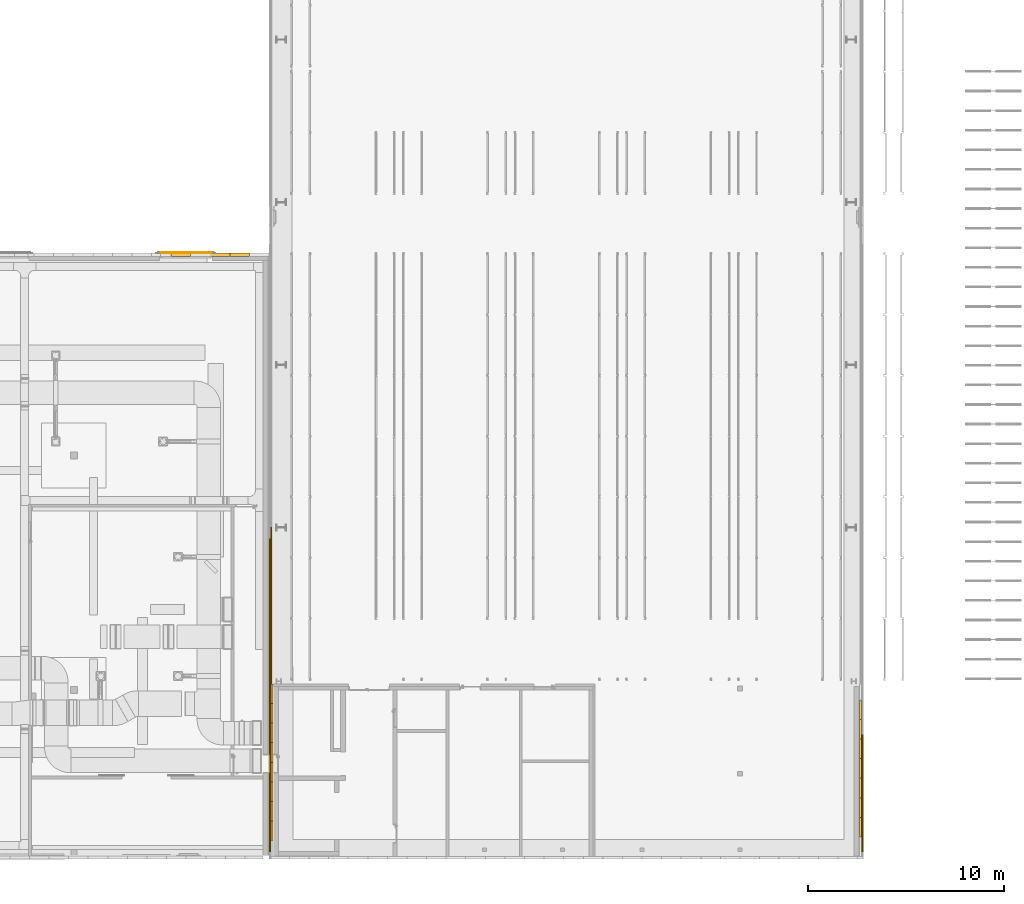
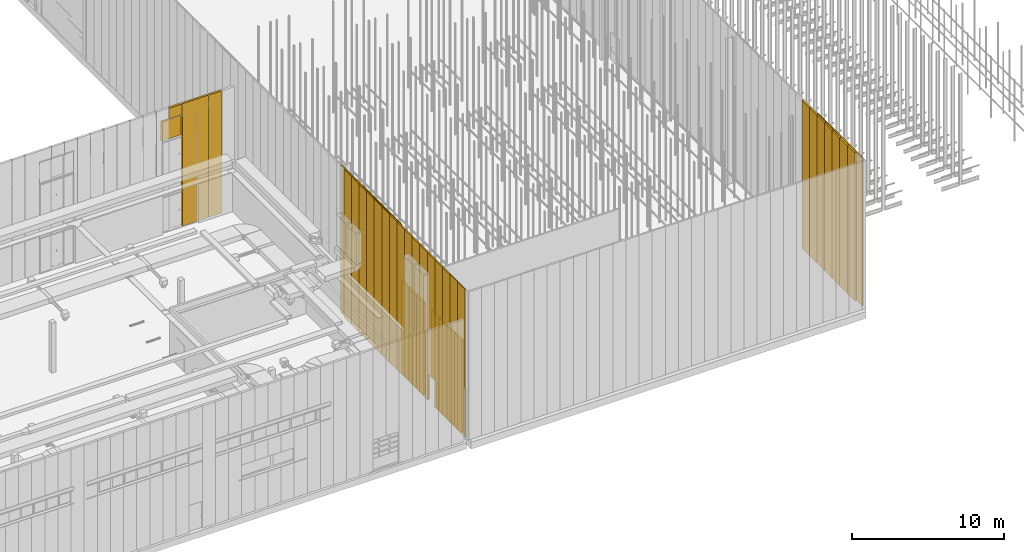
# One storey, part 239 of 302: 49 curtain walls, 3 openings, 6 elements without a shape of their own.
"""IFC2X3 building model written with IfcOpenShell, lengths in metres."""

from ifc_helpers import new_model, entity, si_unit, converted_unit, derived_unit, direction, frame, frame_2d, origin, place, context, subcontext, project, spatial, rectangle, extrude, material, layer, layer_set, layer_usage, type_object, element, aggregate, save


model = new_model("IFC2X3")

# Units and contexts
model_context = context("Model", 3, precision=1e-05, world=origin(), true_north=direction((6.12303176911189e-17, 1.0)))
body_context = subcontext(model_context, "Body", "Model", "MODEL_VIEW")
ifc_project = project(units=[si_unit("LENGTHUNIT", "METRE"), si_unit("AREAUNIT", "SQUARE_METRE"), si_unit("VOLUMEUNIT", "CUBIC_METRE"), converted_unit("PLANEANGLEUNIT", "DEGREE", entity("IfcRatioMeasure", 0.0174532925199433), si_unit("PLANEANGLEUNIT", "RADIAN"), dimensions=[0, 0, 0, 0, 0, 0, 0]), si_unit("MASSUNIT", "GRAM", prefix="KILO"), derived_unit("MASSDENSITYUNIT", [(si_unit("MASSUNIT", "GRAM", prefix="KILO"), 1), (si_unit("LENGTHUNIT", "METRE"), -3)]), derived_unit("MOMENTOFINERTIAUNIT", [(si_unit("LENGTHUNIT", "METRE"), 4)]), si_unit("TIMEUNIT", "SECOND"), si_unit("FREQUENCYUNIT", "HERTZ"), si_unit("THERMODYNAMICTEMPERATUREUNIT", "DEGREE_CELSIUS"), derived_unit("THERMALTRANSMITTANCEUNIT", [(si_unit("MASSUNIT", "GRAM", prefix="KILO"), 1), (si_unit("THERMODYNAMICTEMPERATUREUNIT", "KELVIN"), -1), (si_unit("TIMEUNIT", "SECOND"), -3)]), derived_unit("VOLUMETRICFLOWRATEUNIT", [(si_unit("LENGTHUNIT", "METRE"), 3), (si_unit("TIMEUNIT", "SECOND"), -1)]), si_unit("ELECTRICCURRENTUNIT", "AMPERE"), si_unit("ELECTRICVOLTAGEUNIT", "VOLT"), si_unit("POWERUNIT", "WATT"), si_unit("FORCEUNIT", "NEWTON", prefix="KILO"), si_unit("ILLUMINANCEUNIT", "LUX"), si_unit("LUMINOUSFLUXUNIT", "LUMEN"), si_unit("LUMINOUSINTENSITYUNIT", "CANDELA"), derived_unit("USERDEFINED", [(si_unit("MASSUNIT", "GRAM", prefix="KILO"), -1), (si_unit("LENGTHUNIT", "METRE"), -2), (si_unit("TIMEUNIT", "SECOND"), 3), (si_unit("LUMINOUSFLUXUNIT", "LUMEN"), 1)]), derived_unit("LINEARVELOCITYUNIT", [(si_unit("LENGTHUNIT", "METRE"), 1), (si_unit("TIMEUNIT", "SECOND"), -1)]), si_unit("PRESSUREUNIT", "PASCAL"), derived_unit("USERDEFINED", [(si_unit("LENGTHUNIT", "METRE"), -2), (si_unit("MASSUNIT", "GRAM", prefix="KILO"), 1), (si_unit("TIMEUNIT", "SECOND"), -2)]), derived_unit("LINEARFORCEUNIT", [(si_unit("MASSUNIT", "GRAM", prefix="KILO"), 1), (si_unit("LENGTHUNIT", "METRE"), 1), (si_unit("TIMEUNIT", "SECOND"), -2), (si_unit("LENGTHUNIT", "METRE"), -1)]), derived_unit("PLANARFORCEUNIT", [(si_unit("MASSUNIT", "GRAM", prefix="KILO"), 1), (si_unit("LENGTHUNIT", "METRE"), 1), (si_unit("TIMEUNIT", "SECOND"), -2), (si_unit("LENGTHUNIT", "METRE"), -2)])], contexts=[model_context])

# Site, building, storey
site_placement = place(None, origin())
site = spatial("IfcSite", under=ifc_project, at=site_placement, Name="Default", CompositionType="ELEMENT")
building_placement = place(site_placement, origin())
building = spatial("IfcBuilding", under=site, at=building_placement, CompositionType="ELEMENT")
storey_placement = place(building_placement, frame((0.0, 0.0, -1.3)))
storey = spatial("IfcBuildingStorey", under=building, at=storey_placement, Name="00_EG", CompositionType="ELEMENT", Elevation=-1.3)

# Curtain walls
curtain_wall_type_1 = type_object("IfcCurtainWallType", Name="Fassade:Curtain Wall 1", PredefinedType="NOTDEFINED")
curtain_wall_1_placement = place(storey_placement, frame((0.0, 0.0, 1.3)))
curtain_wall_1 = element("IfcCurtainWall", 1, at=curtain_wall_1_placement, inside=storey, type_object=curtain_wall_type_1, Name="Fassade:Curtain Wall 1", ObjectType="Fassade:Curtain Wall 1")
ifc_material_1 = material(Name="Prepainted_Steel-ArcelorMittal_Construction_HAIRULTRA-35-CORAL-4309-[RAL_3000]")
ifc_layer_1 = layer(ifc_material_1, 0.015)
ifc_material_2 = material(Name="ArcelorMittal-MineralWool")
ifc_layer_2 = layer(ifc_material_2, 0.13)
ifc_material_3 = material(Name="Prepainted_Steel-ArcelorMittal_Construction_INTÉRIEUR-12-WHITE-912")
ifc_layer_3 = layer(ifc_material_3, 0.015)
ifc_layer_set_1 = layer_set([ifc_layer_1, ifc_layer_2, ifc_layer_3], Name="Fassade:Sandwichpaneele 16cm")
ifc_layer_usage_1 = layer_usage(ifc_layer_set_1, "AXIS2", "POSITIVE", -0.08)
curtain_wall_type_2 = type_object("IfcCurtainWallType", Name="Basiswand:Sandwichpaneele d = 16cm aussen", PredefinedType="NOTDEFINED", material=ifc_layer_set_1)
curtain_wall_2_placement = place(storey_placement, frame((-208.612611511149, 45.658088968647, 1.27), z_axis=(0.0, 0.0, 1.0), x_axis=(-1.0, 0.0, 0.0)))
curtain_wall_2 = element("IfcCurtainWall", 2, at=curtain_wall_2_placement, type_object=curtain_wall_type_2, material=ifc_layer_usage_1, Name="Basiswand:Sandwichpaneele d = 16cm aussen", ObjectType="Basiswand:Sandwichpaneele d = 16cm aussen", context=body_context, shape_type="SweptSolid", body=[
    extrude(rectangle(XDim=0.994999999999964, YDim=0.159999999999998, at=frame_2d((0.497499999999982, 0.0), x_axis=(-1.0, 0.0))), origin(), (0.0, 0.0, 1.0), 9.8509),
])
ifc_layer_usage_2 = layer_usage(ifc_layer_set_1, "AXIS2", "POSITIVE", -0.08)
curtain_wall_3_placement = place(storey_placement, frame((-209.612611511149, 45.658088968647, 1.27), z_axis=(0.0, 0.0, 1.0), x_axis=(-1.0, 0.0, 0.0)))
curtain_wall_3 = element("IfcCurtainWall", 3, at=curtain_wall_3_placement, type_object=curtain_wall_type_2, material=ifc_layer_usage_2, Name="Basiswand:Sandwichpaneele d = 16cm aussen", ObjectType="Basiswand:Sandwichpaneele d = 16cm aussen", context=body_context, shape_type="SweptSolid", body=[
    extrude(rectangle(XDim=1.99499999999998, YDim=0.159999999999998, at=frame_2d((0.99749999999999, 0.0), x_axis=(-1.0, 0.0))), origin(), (0.0, 0.0, 1.0), 9.8509),
])
ifc_layer_usage_3 = layer_usage(ifc_layer_set_1, "AXIS2", "POSITIVE", -0.08)
curtain_wall_4_placement = place(storey_placement, frame((-211.612611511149, 45.658088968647, 10.2496475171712), z_axis=(0.0, 0.0, 1.0), x_axis=(-1.0, 0.0, 0.0)))
curtain_wall_4 = element("IfcCurtainWall", 4, at=curtain_wall_4_placement, type_object=curtain_wall_type_2, material=ifc_layer_usage_3, Name="Basiswand:Sandwichpaneele d = 16cm aussen", ObjectType="Basiswand:Sandwichpaneele d = 16cm aussen", context=body_context, shape_type="SweptSolid", body=[
    extrude(rectangle(XDim=0.994999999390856, YDim=0.159999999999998, at=frame_2d((0.497499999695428, 0.0), x_axis=(-1.0, 0.0))), origin(), (0.0, 0.0, 1.0), 0.871252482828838),
])
ifc_material_4 = material(Name="Glass")
ifc_layer_4 = layer(ifc_material_4, 0.035)
ifc_layer_set_2 = layer_set([ifc_layer_4], Name="Fassade:Sandwichpaneele 16cm")
ifc_layer_usage_4 = layer_usage(ifc_layer_set_2, "AXIS2", "POSITIVE", -0.0175)
curtain_wall_type_3 = type_object("IfcCurtainWallType", Name="Basiswand:Glass", PredefinedType="NOTDEFINED", material=ifc_layer_set_2)
curtain_wall_5_placement = place(storey_placement, frame((-210.562611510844, 45.755588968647, 8.53999999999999), z_axis=(0.0, 0.0, 1.0), x_axis=(-1.0, 0.0, 0.0)))
curtain_wall_5 = element("IfcCurtainWall", 5, at=curtain_wall_5_placement, type_object=curtain_wall_type_3, material=ifc_layer_usage_4, Name="Basiswand:Glass", ObjectType="Basiswand:Glass", context=body_context, shape_type="SweptSolid", body=[
    extrude(rectangle(XDim=2.58500000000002, YDim=0.034999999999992, at=frame_2d((1.29250000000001, 0.0), x_axis=(-1.0, 0.0))), origin(), (0.0, 0.0, 1.0), 1.62964751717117),
])
aggregate(curtain_wall_1, [curtain_wall_2, curtain_wall_3, curtain_wall_5, curtain_wall_4])

# Curtain walls, opening
curtain_wall_type_4 = type_object("IfcCurtainWallType", PredefinedType="NOTDEFINED")
curtain_wall_6_placement = place(storey_placement, frame((0.0, 0.0, 1.3)))
curtain_wall_6 = element("IfcCurtainWall", 6, at=curtain_wall_6_placement, inside=storey, type_object=curtain_wall_type_4)
ifc_layer_5 = layer(ifc_material_1, 0.01)
ifc_layer_6 = layer(ifc_material_2, 0.06)
ifc_layer_7 = layer(ifc_material_1, 0.01)
ifc_layer_set_3 = layer_set([ifc_layer_5, ifc_layer_6, ifc_layer_7], Name="Fassade:Sandwichpaneele Gebäude B 80mm")
ifc_layer_usage_5 = layer_usage(ifc_layer_set_3, "AXIS2", "NEGATIVE", 0.04)
curtain_wall_type_5 = type_object("IfcCurtainWallType", Name="Basiswand:Sandwichpaneele d = 8cm aussen", PredefinedType="NOTDEFINED", material=ifc_layer_set_3)
curtain_wall_7_placement = place(storey_placement, frame((-207.570111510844, 31.1680889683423, 1.27), z_axis=(0.0, 0.0, 1.0), x_axis=(0.0, -1.0, 0.0)))
curtain_wall_7 = element("IfcCurtainWall", 7, at=curtain_wall_7_placement, type_object=curtain_wall_type_5, material=ifc_layer_usage_5, Name="Basiswand:Sandwichpaneele d = 8cm aussen", ObjectType="Basiswand:Sandwichpaneele d = 8cm aussen", context=body_context, shape_type="SweptSolid", body=[
    extrude(rectangle(XDim=0.999999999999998, YDim=0.0799999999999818, at=frame_2d((0.499999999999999, 0.0), x_axis=(-1.0, 0.0))), origin(), (0.0, 0.0, 1.0), 11.9314),
])
ifc_layer_usage_6 = layer_usage(ifc_layer_set_3, "AXIS2", "NEGATIVE", 0.04)
curtain_wall_8_placement = place(storey_placement, frame((-207.570111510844, 30.1680889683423, 1.27), z_axis=(0.0, 0.0, 1.0), x_axis=(0.0, -1.0, 0.0)))
curtain_wall_8 = element("IfcCurtainWall", 8, at=curtain_wall_8_placement, type_object=curtain_wall_type_5, material=ifc_layer_usage_6, Name="Basiswand:Sandwichpaneele d = 8cm aussen", ObjectType="Basiswand:Sandwichpaneele d = 8cm aussen", context=body_context, shape_type="SweptSolid", body=[
    extrude(rectangle(XDim=0.999999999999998, YDim=0.0799999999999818, at=frame_2d((0.499999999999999, 0.0), x_axis=(-1.0, 0.0))), origin(), (0.0, 0.0, 1.0), 11.9314),
])
ifc_layer_usage_7 = layer_usage(ifc_layer_set_3, "AXIS2", "NEGATIVE", 0.04)
curtain_wall_9_placement = place(storey_placement, frame((-207.570111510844, 29.1680889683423, 1.27), z_axis=(0.0, 0.0, 1.0), x_axis=(0.0, -1.0, 0.0)))
curtain_wall_9 = element("IfcCurtainWall", 9, at=curtain_wall_9_placement, type_object=curtain_wall_type_5, material=ifc_layer_usage_7, Name="Basiswand:Sandwichpaneele d = 8cm aussen", ObjectType="Basiswand:Sandwichpaneele d = 8cm aussen", context=body_context, shape_type="SweptSolid", body=[
    extrude(rectangle(XDim=0.999999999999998, YDim=0.0799999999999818, at=frame_2d((0.499999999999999, 0.0), x_axis=(-1.0, 0.0))), origin(), (0.0, 0.0, 1.0), 11.9314),
])
ifc_layer_usage_8 = layer_usage(ifc_layer_set_3, "AXIS2", "NEGATIVE", 0.04)
curtain_wall_10_placement = place(storey_placement, frame((-207.570111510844, 28.1680889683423, 1.27), z_axis=(0.0, 0.0, 1.0), x_axis=(0.0, -1.0, 0.0)))
curtain_wall_10 = element("IfcCurtainWall", 10, at=curtain_wall_10_placement, type_object=curtain_wall_type_5, material=ifc_layer_usage_8, Name="Basiswand:Sandwichpaneele d = 8cm aussen", ObjectType="Basiswand:Sandwichpaneele d = 8cm aussen", context=body_context, shape_type="SweptSolid", body=[
    extrude(rectangle(XDim=0.999999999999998, YDim=0.0799999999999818, at=frame_2d((0.499999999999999, 0.0), x_axis=(-1.0, 0.0))), origin(), (0.0, 0.0, 1.0), 11.9314),
])
ifc_layer_usage_9 = layer_usage(ifc_layer_set_3, "AXIS2", "NEGATIVE", 0.04)
curtain_wall_11_placement = place(storey_placement, frame((-207.570111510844, 27.1680889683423, 1.27), z_axis=(0.0, 0.0, 1.0), x_axis=(0.0, -1.0, 0.0)))
curtain_wall_11 = element("IfcCurtainWall", 11, at=curtain_wall_11_placement, type_object=curtain_wall_type_5, material=ifc_layer_usage_9, Name="Basiswand:Sandwichpaneele d = 8cm aussen", ObjectType="Basiswand:Sandwichpaneele d = 8cm aussen", context=body_context, shape_type="SweptSolid", body=[
    extrude(rectangle(XDim=0.999999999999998, YDim=0.0799999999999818, at=frame_2d((0.499999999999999, 0.0), x_axis=(-1.0, 0.0))), origin(), (0.0, 0.0, 1.0), 11.9314),
])
ifc_layer_usage_10 = layer_usage(ifc_layer_set_3, "AXIS2", "NEGATIVE", 0.04)
curtain_wall_12_placement = place(storey_placement, frame((-207.570111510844, 26.1680889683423, 1.27), z_axis=(0.0, 0.0, 1.0), x_axis=(0.0, -1.0, 0.0)))
curtain_wall_12 = element("IfcCurtainWall", 12, at=curtain_wall_12_placement, type_object=curtain_wall_type_5, material=ifc_layer_usage_10, Name="Basiswand:Sandwichpaneele d = 8cm aussen", ObjectType="Basiswand:Sandwichpaneele d = 8cm aussen", context=body_context, shape_type="SweptSolid", body=[
    extrude(rectangle(XDim=1.00000000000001, YDim=0.0799999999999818, at=frame_2d((0.500000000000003, 0.0), x_axis=(-1.0, 0.0))), origin(), (0.0, 0.0, 1.0), 11.9314),
])
ifc_layer_usage_11 = layer_usage(ifc_layer_set_3, "AXIS2", "NEGATIVE", 0.04)
curtain_wall_13_placement = place(storey_placement, frame((-207.570111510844, 25.1680889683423, 1.27), z_axis=(0.0, 0.0, 1.0), x_axis=(0.0, -1.0, 0.0)))
curtain_wall_13 = element("IfcCurtainWall", 13, at=curtain_wall_13_placement, type_object=curtain_wall_type_5, material=ifc_layer_usage_11, Name="Basiswand:Sandwichpaneele d = 8cm aussen", ObjectType="Basiswand:Sandwichpaneele d = 8cm aussen", context=body_context, shape_type="SweptSolid", body=[
    extrude(rectangle(XDim=0.999999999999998, YDim=0.0799999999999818, at=frame_2d((0.499999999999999, 0.0), x_axis=(-1.0, 0.0))), origin(), (0.0, 0.0, 1.0), 11.9314),
])
ifc_layer_usage_12 = layer_usage(ifc_layer_set_3, "AXIS2", "NEGATIVE", 0.04)
curtain_wall_14_placement = place(storey_placement, frame((-207.570111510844, 24.1680889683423, 1.27), z_axis=(0.0, 0.0, 1.0), x_axis=(0.0, -1.0, 0.0)))
curtain_wall_14 = element("IfcCurtainWall", 14, at=curtain_wall_14_placement, type_object=curtain_wall_type_5, material=ifc_layer_usage_12, Name="Basiswand:Sandwichpaneele d = 8cm aussen", ObjectType="Basiswand:Sandwichpaneele d = 8cm aussen", context=body_context, shape_type="SweptSolid", body=[
    extrude(rectangle(XDim=1.00000000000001, YDim=0.0799999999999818, at=frame_2d((0.500000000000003, 0.0), x_axis=(-1.0, 0.0))), origin(), (0.0, 0.0, 1.0), 11.9314),
])
ifc_layer_usage_13 = layer_usage(ifc_layer_set_3, "AXIS2", "NEGATIVE", 0.04)
curtain_wall_15_placement = place(storey_placement, frame((-207.570111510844, 23.1680889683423, 1.27), z_axis=(0.0, 0.0, 1.0), x_axis=(0.0, -1.0, 0.0)))
curtain_wall_15 = element("IfcCurtainWall", 15, at=curtain_wall_15_placement, type_object=curtain_wall_type_5, material=ifc_layer_usage_13, Name="Basiswand:Sandwichpaneele d = 8cm aussen", ObjectType="Basiswand:Sandwichpaneele d = 8cm aussen", context=body_context, shape_type="SweptSolid", body=[
    extrude(rectangle(XDim=0.999999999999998, YDim=0.0799999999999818, at=frame_2d((0.499999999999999, 0.0), x_axis=(-1.0, 0.0))), origin(), (0.0, 0.0, 1.0), 11.9314),
])
ifc_layer_usage_14 = layer_usage(ifc_layer_set_3, "AXIS2", "NEGATIVE", 0.04)
curtain_wall_16_placement = place(storey_placement, frame((-207.570111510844, 22.1680889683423, 1.27), z_axis=(0.0, 0.0, 1.0), x_axis=(0.0, -1.0, 0.0)))
curtain_wall_16 = element("IfcCurtainWall", 16, at=curtain_wall_16_placement, type_object=curtain_wall_type_5, material=ifc_layer_usage_14, Name="Basiswand:Sandwichpaneele d = 8cm aussen", ObjectType="Basiswand:Sandwichpaneele d = 8cm aussen", context=body_context, shape_type="SweptSolid", body=[
    extrude(rectangle(XDim=0.999999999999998, YDim=0.0799999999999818, at=frame_2d((0.499999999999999, 0.0), x_axis=(-1.0, 0.0))), origin(), (0.0, 0.0, 1.0), 11.9314),
])
ifc_layer_usage_15 = layer_usage(ifc_layer_set_3, "AXIS2", "NEGATIVE", 0.04)
curtain_wall_17_placement = place(storey_placement, frame((-207.570111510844, 21.1680889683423, 1.27), z_axis=(0.0, 0.0, 1.0), x_axis=(0.0, -1.0, 0.0)))
curtain_wall_17 = element("IfcCurtainWall", 17, at=curtain_wall_17_placement, type_object=curtain_wall_type_5, material=ifc_layer_usage_15, Name="Basiswand:Sandwichpaneele d = 8cm aussen", ObjectType="Basiswand:Sandwichpaneele d = 8cm aussen", context=body_context, shape_type="SweptSolid", body=[
    extrude(rectangle(XDim=1.00000000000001, YDim=0.0799999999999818, at=frame_2d((0.500000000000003, 0.0), x_axis=(-1.0, 0.0))), origin(), (0.0, 0.0, 1.0), 11.9314),
])
ifc_layer_usage_16 = layer_usage(ifc_layer_set_3, "AXIS2", "NEGATIVE", 0.04)
curtain_wall_18_placement = place(storey_placement, frame((-207.570111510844, 20.1680889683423, 1.27), z_axis=(0.0, 0.0, 1.0), x_axis=(0.0, -1.0, 0.0)))
curtain_wall_18 = element("IfcCurtainWall", 18, at=curtain_wall_18_placement, type_object=curtain_wall_type_5, material=ifc_layer_usage_16, Name="Basiswand:Sandwichpaneele d = 8cm aussen", ObjectType="Basiswand:Sandwichpaneele d = 8cm aussen", context=body_context, shape_type="SweptSolid", body=[
    extrude(rectangle(XDim=1.00000000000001, YDim=0.0799999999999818, at=frame_2d((0.500000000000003, 0.0), x_axis=(-1.0, 0.0))), origin(), (0.0, 0.0, 1.0), 11.9314),
])
opening_1_placement = place(curtain_wall_18_placement, origin())
opening_1 = element("IfcOpeningElement", 19, at=opening_1_placement, cuts=curtain_wall_18, Name="Basiswand:Sandwichpaneele d = 8cm aussen", ObjectType="Opening", context=body_context, shape_type="SweptSolid", body=[
    extrude(rectangle(XDim=2.17, YDim=0.98, at=frame_2d((0.0, 1.08246744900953e-15), x_axis=(1.0, 0.0))), frame((0.484999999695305, -1.33400000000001, 1.055), z_axis=(0.0, 1.0, 0.0), x_axis=(0.0, 0.0, -1.0)), (0.0, 0.0, 1.0), 3.048),
])
ifc_layer_usage_17 = layer_usage(ifc_layer_set_3, "AXIS2", "NEGATIVE", 0.04)
curtain_wall_19_placement = place(storey_placement, frame((-207.570111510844, 19.1680889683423, 1.27), z_axis=(0.0, 0.0, 1.0), x_axis=(0.0, -1.0, 0.0)))
curtain_wall_19 = element("IfcCurtainWall", 20, at=curtain_wall_19_placement, type_object=curtain_wall_type_5, material=ifc_layer_usage_17, Name="Basiswand:Sandwichpaneele d = 8cm aussen", ObjectType="Basiswand:Sandwichpaneele d = 8cm aussen", context=body_context, shape_type="SweptSolid", body=[
    extrude(rectangle(XDim=0.999999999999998, YDim=0.0799999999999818, at=frame_2d((0.499999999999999, 0.0), x_axis=(-1.0, 0.0))), origin(), (0.0, 0.0, 1.0), 11.9314),
])
ifc_layer_usage_18 = layer_usage(ifc_layer_set_3, "AXIS2", "NEGATIVE", 0.04)
curtain_wall_20_placement = place(storey_placement, frame((-207.570111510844, 18.1680889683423, 1.27), z_axis=(0.0, 0.0, 1.0), x_axis=(0.0, -1.0, 0.0)))
curtain_wall_20 = element("IfcCurtainWall", 21, at=curtain_wall_20_placement, type_object=curtain_wall_type_5, material=ifc_layer_usage_18, Name="Basiswand:Sandwichpaneele d = 8cm aussen", ObjectType="Basiswand:Sandwichpaneele d = 8cm aussen", context=body_context, shape_type="SweptSolid", body=[
    extrude(rectangle(XDim=0.999999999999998, YDim=0.0799999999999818, at=frame_2d((0.499999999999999, 0.0), x_axis=(-1.0, 0.0))), origin(), (0.0, 0.0, 1.0), 11.9314),
])
ifc_layer_usage_19 = layer_usage(ifc_layer_set_3, "AXIS2", "NEGATIVE", 0.04)
curtain_wall_21_placement = place(storey_placement, frame((-207.570111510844, 17.1680889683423, 1.27), z_axis=(0.0, 0.0, 1.0), x_axis=(0.0, -1.0, 0.0)))
curtain_wall_21 = element("IfcCurtainWall", 22, at=curtain_wall_21_placement, type_object=curtain_wall_type_5, material=ifc_layer_usage_19, Name="Basiswand:Sandwichpaneele d = 8cm aussen", ObjectType="Basiswand:Sandwichpaneele d = 8cm aussen", context=body_context, shape_type="SweptSolid", body=[
    extrude(rectangle(XDim=0.999999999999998, YDim=0.0799999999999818, at=frame_2d((0.499999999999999, 0.0), x_axis=(-1.0, 0.0))), origin(), (0.0, 0.0, 1.0), 11.9314),
])
ifc_layer_usage_20 = layer_usage(ifc_layer_set_3, "AXIS2", "NEGATIVE", 0.04)
curtain_wall_22_placement = place(storey_placement, frame((-207.570111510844, 16.1680889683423, 1.27), z_axis=(0.0, 0.0, 1.0), x_axis=(0.0, -1.0, 0.0)))
curtain_wall_22 = element("IfcCurtainWall", 23, at=curtain_wall_22_placement, type_object=curtain_wall_type_5, material=ifc_layer_usage_20, Name="Basiswand:Sandwichpaneele d = 8cm aussen", ObjectType="Basiswand:Sandwichpaneele d = 8cm aussen", context=body_context, shape_type="SweptSolid", body=[
    extrude(rectangle(XDim=0.999999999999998, YDim=0.0799999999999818, at=frame_2d((0.499999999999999, 0.0), x_axis=(-1.0, 0.0))), origin(), (0.0, 0.0, 1.0), 11.9314),
])
aggregate(curtain_wall_6, [curtain_wall_7, curtain_wall_8, curtain_wall_9, curtain_wall_10, curtain_wall_11, curtain_wall_12, curtain_wall_13, curtain_wall_14, curtain_wall_15, curtain_wall_16, curtain_wall_17, curtain_wall_18, opening_1, curtain_wall_19, curtain_wall_20, curtain_wall_21, curtain_wall_22])

# Curtain walls
curtain_wall_23_placement = place(storey_placement, frame((0.0, 0.0, 1.3)))
curtain_wall_23 = element("IfcCurtainWall", 24, at=curtain_wall_23_placement, inside=storey, type_object=curtain_wall_type_4)
ifc_layer_usage_21 = layer_usage(ifc_layer_set_3, "AXIS2", "POSITIVE", -0.04)
curtain_wall_24_placement = place(storey_placement, frame((-177.310111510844, 21.1680889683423, 1.27), z_axis=(0.0, 0.0, 1.0), x_axis=(0.0, -1.0, 0.0)))
curtain_wall_24 = element("IfcCurtainWall", 25, at=curtain_wall_24_placement, type_object=curtain_wall_type_5, material=ifc_layer_usage_21, Name="Basiswand:Sandwichpaneele d = 8cm aussen", ObjectType="Basiswand:Sandwichpaneele d = 8cm aussen", context=body_context, shape_type="SweptSolid", body=[
    extrude(rectangle(XDim=1.00000000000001, YDim=0.0799999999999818, at=frame_2d((0.500000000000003, 0.0), x_axis=(-1.0, 0.0))), origin(), (0.0, 0.0, 1.0), 11.9314),
])
ifc_layer_usage_22 = layer_usage(ifc_layer_set_3, "AXIS2", "POSITIVE", -0.04)
curtain_wall_25_placement = place(storey_placement, frame((-177.310111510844, 20.1680889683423, 1.27), z_axis=(0.0, 0.0, 1.0), x_axis=(0.0, -1.0, 0.0)))
curtain_wall_25 = element("IfcCurtainWall", 26, at=curtain_wall_25_placement, type_object=curtain_wall_type_5, material=ifc_layer_usage_22, Name="Basiswand:Sandwichpaneele d = 8cm aussen", ObjectType="Basiswand:Sandwichpaneele d = 8cm aussen", context=body_context, shape_type="SweptSolid", body=[
    extrude(rectangle(XDim=0.999999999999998, YDim=0.0799999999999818, at=frame_2d((0.499999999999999, 0.0), x_axis=(-1.0, 0.0))), origin(), (0.0, 0.0, 1.0), 11.9314),
])
ifc_layer_usage_23 = layer_usage(ifc_layer_set_3, "AXIS2", "POSITIVE", -0.04)
curtain_wall_26_placement = place(storey_placement, frame((-177.310111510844, 19.1680889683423, 1.27), z_axis=(0.0, 0.0, 1.0), x_axis=(0.0, -1.0, 0.0)))
curtain_wall_26 = element("IfcCurtainWall", 27, at=curtain_wall_26_placement, type_object=curtain_wall_type_5, material=ifc_layer_usage_23, Name="Basiswand:Sandwichpaneele d = 8cm aussen", ObjectType="Basiswand:Sandwichpaneele d = 8cm aussen", context=body_context, shape_type="SweptSolid", body=[
    extrude(rectangle(XDim=0.999999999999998, YDim=0.0799999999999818, at=frame_2d((0.499999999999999, 0.0), x_axis=(-1.0, 0.0))), origin(), (0.0, 0.0, 1.0), 11.9314),
])
ifc_layer_usage_24 = layer_usage(ifc_layer_set_3, "AXIS2", "POSITIVE", -0.04)
curtain_wall_27_placement = place(storey_placement, frame((-177.310111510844, 18.1680889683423, 1.27), z_axis=(0.0, 0.0, 1.0), x_axis=(0.0, -1.0, 0.0)))
curtain_wall_27 = element("IfcCurtainWall", 28, at=curtain_wall_27_placement, type_object=curtain_wall_type_5, material=ifc_layer_usage_24, Name="Basiswand:Sandwichpaneele d = 8cm aussen", ObjectType="Basiswand:Sandwichpaneele d = 8cm aussen", context=body_context, shape_type="SweptSolid", body=[
    extrude(rectangle(XDim=0.999999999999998, YDim=0.0799999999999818, at=frame_2d((0.499999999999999, 0.0), x_axis=(-1.0, 0.0))), origin(), (0.0, 0.0, 1.0), 11.9314),
])
ifc_layer_usage_25 = layer_usage(ifc_layer_set_3, "AXIS2", "POSITIVE", -0.04)
curtain_wall_28_placement = place(storey_placement, frame((-177.310111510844, 17.1680889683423, 1.27), z_axis=(0.0, 0.0, 1.0), x_axis=(0.0, -1.0, 0.0)))
curtain_wall_28 = element("IfcCurtainWall", 29, at=curtain_wall_28_placement, type_object=curtain_wall_type_5, material=ifc_layer_usage_25, Name="Basiswand:Sandwichpaneele d = 8cm aussen", ObjectType="Basiswand:Sandwichpaneele d = 8cm aussen", context=body_context, shape_type="SweptSolid", body=[
    extrude(rectangle(XDim=0.999999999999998, YDim=0.0799999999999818, at=frame_2d((0.499999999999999, 0.0), x_axis=(-1.0, 0.0))), origin(), (0.0, 0.0, 1.0), 11.9314),
])
ifc_layer_usage_26 = layer_usage(ifc_layer_set_3, "AXIS2", "POSITIVE", -0.04)
curtain_wall_29_placement = place(storey_placement, frame((-177.310111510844, 16.1680889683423, 1.27), z_axis=(0.0, 0.0, 1.0), x_axis=(0.0, -1.0, 0.0)))
curtain_wall_29 = element("IfcCurtainWall", 30, at=curtain_wall_29_placement, type_object=curtain_wall_type_5, material=ifc_layer_usage_26, Name="Basiswand:Sandwichpaneele d = 8cm aussen", ObjectType="Basiswand:Sandwichpaneele d = 8cm aussen", context=body_context, shape_type="SweptSolid", body=[
    extrude(rectangle(XDim=0.999999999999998, YDim=0.0799999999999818, at=frame_2d((0.499999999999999, 0.0), x_axis=(-1.0, 0.0))), origin(), (0.0, 0.0, 1.0), 11.9314),
])
aggregate(curtain_wall_23, [curtain_wall_24, curtain_wall_25, curtain_wall_26, curtain_wall_27, curtain_wall_28, curtain_wall_29])

# Curtain walls, openings
curtain_wall_type_6 = type_object("IfcCurtainWallType", PredefinedType="NOTDEFINED")
curtain_wall_30_placement = place(storey_placement, frame((0.0, 0.0, 1.3)))
curtain_wall_30 = element("IfcCurtainWall", 31, at=curtain_wall_30_placement, inside=storey, type_object=curtain_wall_type_6)
ifc_layer_8 = layer(ifc_material_1, 0.015)
ifc_layer_9 = layer(ifc_material_2, 0.09)
ifc_layer_10 = layer(ifc_material_1, 0.015)
ifc_layer_set_4 = layer_set([ifc_layer_8, ifc_layer_9, ifc_layer_10], Name="Fassade:Sandwichpaneele Gebäude B 120mm")
ifc_layer_usage_27 = layer_usage(ifc_layer_set_4, "AXIS2", "NEGATIVE", 0.06)
curtain_wall_type_7 = type_object("IfcCurtainWallType", Name="Basiswand:Sandwichpaneele d = 12cm aussen", PredefinedType="NOTDEFINED", material=ifc_layer_set_4)
curtain_wall_31_placement = place(storey_placement, frame((-207.460111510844, 23.748088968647, 1.27), z_axis=(0.0, 0.0, 1.0), x_axis=(0.0, -1.0, 0.0)))
curtain_wall_31 = element("IfcCurtainWall", 32, at=curtain_wall_31_placement, type_object=curtain_wall_type_7, material=ifc_layer_usage_27, Name="Basiswand:Sandwichpaneele d = 12cm aussen", ObjectType="Basiswand:Sandwichpaneele d = 12cm aussen", context=body_context, shape_type="SweptSolid", body=[
    extrude(rectangle(XDim=1.0000000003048, YDim=0.119999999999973, at=frame_2d((0.5000000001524, 0.0), x_axis=(-1.0, 0.0))), origin(), (0.0, 0.0, 1.0), 7.47),
])
ifc_layer_usage_28 = layer_usage(ifc_layer_set_4, "AXIS2", "NEGATIVE", 0.06)
curtain_wall_32_placement = place(storey_placement, frame((-207.460111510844, 22.7480889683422, 1.27), z_axis=(0.0, 0.0, 1.0), x_axis=(0.0, -1.0, 0.0)))
curtain_wall_32 = element("IfcCurtainWall", 33, at=curtain_wall_32_placement, type_object=curtain_wall_type_7, material=ifc_layer_usage_28, Name="Basiswand:Sandwichpaneele d = 12cm aussen", ObjectType="Basiswand:Sandwichpaneele d = 12cm aussen", context=body_context, shape_type="SweptSolid", body=[
    extrude(rectangle(XDim=1.0, YDim=0.119999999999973, at=frame_2d((0.500000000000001, 0.0), x_axis=(-1.0, 0.0))), origin(), (0.0, 0.0, 1.0), 7.47),
])
ifc_layer_usage_29 = layer_usage(ifc_layer_set_4, "AXIS2", "NEGATIVE", 0.06)
curtain_wall_33_placement = place(storey_placement, frame((-207.460111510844, 21.7480889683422, 1.27), z_axis=(0.0, 0.0, 1.0), x_axis=(0.0, -1.0, 0.0)))
curtain_wall_33 = element("IfcCurtainWall", 34, at=curtain_wall_33_placement, type_object=curtain_wall_type_7, material=ifc_layer_usage_29, Name="Basiswand:Sandwichpaneele d = 12cm aussen", ObjectType="Basiswand:Sandwichpaneele d = 12cm aussen", context=body_context, shape_type="SweptSolid", body=[
    extrude(rectangle(XDim=0.999999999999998, YDim=0.119999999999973, at=frame_2d((0.499999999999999, 0.0), x_axis=(-1.0, 0.0))), origin(), (0.0, 0.0, 1.0), 7.47),
])
ifc_layer_usage_30 = layer_usage(ifc_layer_set_4, "AXIS2", "NEGATIVE", 0.06)
curtain_wall_34_placement = place(storey_placement, frame((-207.460111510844, 20.7480889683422, 1.27), z_axis=(0.0, 0.0, 1.0), x_axis=(0.0, -1.0, 0.0)))
curtain_wall_34 = element("IfcCurtainWall", 35, at=curtain_wall_34_placement, type_object=curtain_wall_type_7, material=ifc_layer_usage_30, Name="Basiswand:Sandwichpaneele d = 12cm aussen", ObjectType="Basiswand:Sandwichpaneele d = 12cm aussen", context=body_context, shape_type="SweptSolid", body=[
    extrude(rectangle(XDim=1.0, YDim=0.119999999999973, at=frame_2d((0.500000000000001, 0.0), x_axis=(-1.0, 0.0))), origin(), (0.0, 0.0, 1.0), 7.47),
])
opening_2_placement = place(curtain_wall_34_placement, origin())
opening_2 = element("IfcOpeningElement", 36, at=opening_2_placement, cuts=curtain_wall_34, Name="Basiswand:Sandwichpaneele d = 12cm aussen", ObjectType="Opening", context=body_context, shape_type="SweptSolid", body=[
    extrude(rectangle(XDim=2.17, YDim=0.98, at=frame_2d((0.0, 1.08246744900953e-15), x_axis=(1.0, 0.0))), frame((1.0649999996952, -1.44400000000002, 1.055), z_axis=(0.0, 1.0, 0.0), x_axis=(0.0, 0.0, -1.0)), (0.0, 0.0, 1.0), 3.048),
])
ifc_layer_usage_31 = layer_usage(ifc_layer_set_4, "AXIS2", "NEGATIVE", 0.06)
curtain_wall_35_placement = place(storey_placement, frame((-207.460111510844, 19.7480889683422, 1.27), z_axis=(0.0, 0.0, 1.0), x_axis=(0.0, -1.0, 0.0)))
curtain_wall_35 = element("IfcCurtainWall", 37, at=curtain_wall_35_placement, type_object=curtain_wall_type_7, material=ifc_layer_usage_31, Name="Basiswand:Sandwichpaneele d = 12cm aussen", ObjectType="Basiswand:Sandwichpaneele d = 12cm aussen", context=body_context, shape_type="SweptSolid", body=[
    extrude(rectangle(XDim=0.999999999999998, YDim=0.119999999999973, at=frame_2d((0.499999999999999, 0.0), x_axis=(-1.0, 0.0))), origin(), (0.0, 0.0, 1.0), 7.47),
])
opening_3_placement = place(curtain_wall_35_placement, origin())
opening_3 = element("IfcOpeningElement", 38, at=opening_3_placement, cuts=curtain_wall_35, Name="Basiswand:Sandwichpaneele d = 12cm aussen", ObjectType="Opening", context=body_context, shape_type="SweptSolid", body=[
    extrude(rectangle(XDim=2.17, YDim=0.98, at=frame_2d((0.0, 1.08246744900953e-15), x_axis=(1.0, 0.0))), frame((0.0649999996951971, -1.44400000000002, 1.055), z_axis=(0.0, 1.0, 0.0), x_axis=(0.0, 0.0, -1.0)), (0.0, 0.0, 1.0), 3.048),
])
ifc_layer_usage_32 = layer_usage(ifc_layer_set_4, "AXIS2", "NEGATIVE", 0.06)
curtain_wall_36_placement = place(storey_placement, frame((-207.460111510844, 18.7480889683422, 1.27), z_axis=(0.0, 0.0, 1.0), x_axis=(0.0, -1.0, 0.0)))
curtain_wall_36 = element("IfcCurtainWall", 39, at=curtain_wall_36_placement, type_object=curtain_wall_type_7, material=ifc_layer_usage_32, Name="Basiswand:Sandwichpaneele d = 12cm aussen", ObjectType="Basiswand:Sandwichpaneele d = 12cm aussen", context=body_context, shape_type="SweptSolid", body=[
    extrude(rectangle(XDim=1.0, YDim=0.119999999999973, at=frame_2d((0.500000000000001, 0.0), x_axis=(-1.0, 0.0))), origin(), (0.0, 0.0, 1.0), 7.47),
])
ifc_layer_usage_33 = layer_usage(ifc_layer_set_4, "AXIS2", "NEGATIVE", 0.06)
curtain_wall_37_placement = place(storey_placement, frame((-207.460111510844, 17.7480889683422, 1.27), z_axis=(0.0, 0.0, 1.0), x_axis=(0.0, -1.0, 0.0)))
curtain_wall_37 = element("IfcCurtainWall", 40, at=curtain_wall_37_placement, type_object=curtain_wall_type_7, material=ifc_layer_usage_33, Name="Basiswand:Sandwichpaneele d = 12cm aussen", ObjectType="Basiswand:Sandwichpaneele d = 12cm aussen", context=body_context, shape_type="SweptSolid", body=[
    extrude(rectangle(XDim=0.999999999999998, YDim=0.119999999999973, at=frame_2d((0.499999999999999, 0.0), x_axis=(-1.0, 0.0))), origin(), (0.0, 0.0, 1.0), 7.47),
])
ifc_layer_usage_34 = layer_usage(ifc_layer_set_4, "AXIS2", "NEGATIVE", 0.06)
curtain_wall_38_placement = place(storey_placement, frame((-207.460111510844, 16.7480889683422, 1.27), z_axis=(0.0, 0.0, 1.0), x_axis=(0.0, -1.0, 0.0)))
curtain_wall_38 = element("IfcCurtainWall", 41, at=curtain_wall_38_placement, type_object=curtain_wall_type_7, material=ifc_layer_usage_34, Name="Basiswand:Sandwichpaneele d = 12cm aussen", ObjectType="Basiswand:Sandwichpaneele d = 12cm aussen", context=body_context, shape_type="SweptSolid", body=[
    extrude(rectangle(XDim=1.0, YDim=0.119999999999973, at=frame_2d((0.500000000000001, 0.0), x_axis=(-1.0, 0.0))), origin(), (0.0, 0.0, 1.0), 7.47),
])
aggregate(curtain_wall_30, [curtain_wall_31, curtain_wall_32, curtain_wall_33, curtain_wall_34, opening_2, curtain_wall_35, opening_3, curtain_wall_36, curtain_wall_37, curtain_wall_38])

# Curtain walls
curtain_wall_39_placement = place(storey_placement, frame((0.0, 0.0, 1.3)))
curtain_wall_39 = element("IfcCurtainWall", 42, at=curtain_wall_39_placement, inside=storey, type_object=curtain_wall_type_6)
ifc_layer_usage_35 = layer_usage(ifc_layer_set_4, "AXIS2", "NEGATIVE", 0.06)
curtain_wall_40_placement = place(storey_placement, frame((-177.420111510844, 15.9380889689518, 1.27), z_axis=(0.0, 0.0, 1.0), x_axis=(0.0, 1.0, 0.0)))
curtain_wall_40 = element("IfcCurtainWall", 43, at=curtain_wall_40_placement, type_object=curtain_wall_type_7, material=ifc_layer_usage_35, Name="Basiswand:Sandwichpaneele d = 12cm aussen", ObjectType="Basiswand:Sandwichpaneele d = 12cm aussen", context=body_context, shape_type="SweptSolid", body=[
    extrude(rectangle(XDim=1.0, YDim=0.119999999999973, at=frame_2d((0.5, 0.0), x_axis=(-1.0, 0.0))), origin(), (0.0, 0.0, 1.0), 11.9314),
])
ifc_layer_usage_36 = layer_usage(ifc_layer_set_4, "AXIS2", "NEGATIVE", 0.06)
curtain_wall_41_placement = place(storey_placement, frame((-177.420111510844, 16.9380889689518, 1.27), z_axis=(0.0, 0.0, 1.0), x_axis=(0.0, 1.0, 0.0)))
curtain_wall_41 = element("IfcCurtainWall", 44, at=curtain_wall_41_placement, type_object=curtain_wall_type_7, material=ifc_layer_usage_36, Name="Basiswand:Sandwichpaneele d = 12cm aussen", ObjectType="Basiswand:Sandwichpaneele d = 12cm aussen", context=body_context, shape_type="SweptSolid", body=[
    extrude(rectangle(XDim=1.0, YDim=0.119999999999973, at=frame_2d((0.5, 0.0), x_axis=(-1.0, 0.0))), origin(), (0.0, 0.0, 1.0), 11.9314),
])
ifc_layer_usage_37 = layer_usage(ifc_layer_set_4, "AXIS2", "NEGATIVE", 0.06)
curtain_wall_42_placement = place(storey_placement, frame((-177.420111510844, 17.9380889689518, 1.27), z_axis=(0.0, 0.0, 1.0), x_axis=(0.0, 1.0, 0.0)))
curtain_wall_42 = element("IfcCurtainWall", 45, at=curtain_wall_42_placement, type_object=curtain_wall_type_7, material=ifc_layer_usage_37, Name="Basiswand:Sandwichpaneele d = 12cm aussen", ObjectType="Basiswand:Sandwichpaneele d = 12cm aussen", context=body_context, shape_type="SweptSolid", body=[
    extrude(rectangle(XDim=1.0, YDim=0.119999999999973, at=frame_2d((0.5, 0.0), x_axis=(-1.0, 0.0))), origin(), (0.0, 0.0, 1.0), 11.9314),
])
ifc_layer_usage_38 = layer_usage(ifc_layer_set_4, "AXIS2", "NEGATIVE", 0.06)
curtain_wall_43_placement = place(storey_placement, frame((-177.420111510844, 18.9380889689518, 1.27), z_axis=(0.0, 0.0, 1.0), x_axis=(0.0, 1.0, 0.0)))
curtain_wall_43 = element("IfcCurtainWall", 46, at=curtain_wall_43_placement, type_object=curtain_wall_type_7, material=ifc_layer_usage_38, Name="Basiswand:Sandwichpaneele d = 12cm aussen", ObjectType="Basiswand:Sandwichpaneele d = 12cm aussen", context=body_context, shape_type="SweptSolid", body=[
    extrude(rectangle(XDim=1.0, YDim=0.119999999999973, at=frame_2d((0.5, 0.0), x_axis=(-1.0, 0.0))), origin(), (0.0, 0.0, 1.0), 11.9314),
])
ifc_layer_usage_39 = layer_usage(ifc_layer_set_4, "AXIS2", "NEGATIVE", 0.06)
curtain_wall_44_placement = place(storey_placement, frame((-177.420111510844, 19.9380889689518, 1.27), z_axis=(0.0, 0.0, 1.0), x_axis=(0.0, 1.0, 0.0)))
curtain_wall_44 = element("IfcCurtainWall", 47, at=curtain_wall_44_placement, type_object=curtain_wall_type_7, material=ifc_layer_usage_39, Name="Basiswand:Sandwichpaneele d = 12cm aussen", ObjectType="Basiswand:Sandwichpaneele d = 12cm aussen", context=body_context, shape_type="SweptSolid", body=[
    extrude(rectangle(XDim=0.999999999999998, YDim=0.119999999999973, at=frame_2d((0.499999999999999, 0.0), x_axis=(-1.0, 0.0))), origin(), (0.0, 0.0, 1.0), 11.9314),
])
ifc_layer_usage_40 = layer_usage(ifc_layer_set_4, "AXIS2", "NEGATIVE", 0.06)
curtain_wall_45_placement = place(storey_placement, frame((-177.420111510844, 20.9380889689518, 1.27), z_axis=(0.0, 0.0, 1.0), x_axis=(0.0, 1.0, 0.0)))
curtain_wall_45 = element("IfcCurtainWall", 48, at=curtain_wall_45_placement, type_object=curtain_wall_type_7, material=ifc_layer_usage_40, Name="Basiswand:Sandwichpaneele d = 12cm aussen", ObjectType="Basiswand:Sandwichpaneele d = 12cm aussen", context=body_context, shape_type="SweptSolid", body=[
    extrude(rectangle(XDim=1.0, YDim=0.119999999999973, at=frame_2d((0.500000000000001, 0.0), x_axis=(-1.0, 0.0))), origin(), (0.0, 0.0, 1.0), 11.9314),
])
ifc_layer_usage_41 = layer_usage(ifc_layer_set_4, "AXIS2", "NEGATIVE", 0.06)
curtain_wall_46_placement = place(storey_placement, frame((-177.420111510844, 21.9380889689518, 1.27), z_axis=(0.0, 0.0, 1.0), x_axis=(0.0, 1.0, 0.0)))
curtain_wall_46 = element("IfcCurtainWall", 49, at=curtain_wall_46_placement, type_object=curtain_wall_type_7, material=ifc_layer_usage_41, Name="Basiswand:Sandwichpaneele d = 12cm aussen", ObjectType="Basiswand:Sandwichpaneele d = 12cm aussen", context=body_context, shape_type="SweptSolid", body=[
    extrude(rectangle(XDim=0.999999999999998, YDim=0.119999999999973, at=frame_2d((0.499999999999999, 0.0), x_axis=(-1.0, 0.0))), origin(), (0.0, 0.0, 1.0), 11.9314),
])
aggregate(curtain_wall_39, [curtain_wall_40, curtain_wall_41, curtain_wall_42, curtain_wall_43, curtain_wall_44, curtain_wall_45, curtain_wall_46])

curtain_wall_type_8 = type_object("IfcCurtainWallType", PredefinedType="NOTDEFINED")
curtain_wall_47_placement = place(storey_placement, frame((0.0, 0.0, 1.3)))
curtain_wall_47 = element("IfcCurtainWall", 50, at=curtain_wall_47_placement, inside=storey, type_object=curtain_wall_type_8)
ifc_layer_11 = layer(ifc_material_1, 0.01)
ifc_layer_12 = layer(ifc_material_2, 0.04)
ifc_layer_13 = layer(ifc_material_1, 0.01)
ifc_layer_set_5 = layer_set([ifc_layer_11, ifc_layer_12, ifc_layer_13], Name="Fassade:Sandwichpaneele Gebäude B 60mm")
ifc_layer_usage_42 = layer_usage(ifc_layer_set_5, "AXIS2", "NEGATIVE", 0.03)
curtain_wall_type_9 = type_object("IfcCurtainWallType", Name="Basiswand:Sandwichpaneele d = 6cm aussen", PredefinedType="NOTDEFINED", material=ifc_layer_set_5)
curtain_wall_48_placement = place(storey_placement, frame((-207.490111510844, 23.748088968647, 1.27), z_axis=(0.0, 0.0, 1.0), x_axis=(0.0, 1.0, 0.0)))
curtain_wall_48 = element("IfcCurtainWall", 51, at=curtain_wall_48_placement, type_object=curtain_wall_type_9, material=ifc_layer_usage_42, Name="Basiswand:Sandwichpaneele d = 6cm aussen", ObjectType="Basiswand:Sandwichpaneele d = 6cm aussen", context=body_context, shape_type="SweptSolid", body=[
    extrude(rectangle(XDim=1.0000000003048, YDim=0.0599999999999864, at=frame_2d((0.5000000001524, 0.0), x_axis=(-1.0, 0.0))), origin(), (0.0, 0.0, 1.0), 11.9314),
])
ifc_layer_usage_43 = layer_usage(ifc_layer_set_5, "AXIS2", "NEGATIVE", 0.03)
curtain_wall_49_placement = place(storey_placement, frame((-207.490111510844, 24.7480889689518, 1.27), z_axis=(0.0, 0.0, 1.0), x_axis=(0.0, 1.0, 0.0)))
curtain_wall_49 = element("IfcCurtainWall", 52, at=curtain_wall_49_placement, type_object=curtain_wall_type_9, material=ifc_layer_usage_43, Name="Basiswand:Sandwichpaneele d = 6cm aussen", ObjectType="Basiswand:Sandwichpaneele d = 6cm aussen", context=body_context, shape_type="SweptSolid", body=[
    extrude(rectangle(XDim=1.0, YDim=0.0599999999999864, at=frame_2d((0.500000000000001, 0.0), x_axis=(-1.0, 0.0))), origin(), (0.0, 0.0, 1.0), 11.9314),
])
ifc_layer_usage_44 = layer_usage(ifc_layer_set_5, "AXIS2", "NEGATIVE", 0.03)
curtain_wall_50_placement = place(storey_placement, frame((-207.490111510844, 25.7480889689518, 1.27), z_axis=(0.0, 0.0, 1.0), x_axis=(0.0, 1.0, 0.0)))
curtain_wall_50 = element("IfcCurtainWall", 53, at=curtain_wall_50_placement, type_object=curtain_wall_type_9, material=ifc_layer_usage_44, Name="Basiswand:Sandwichpaneele d = 6cm aussen", ObjectType="Basiswand:Sandwichpaneele d = 6cm aussen", context=body_context, shape_type="SweptSolid", body=[
    extrude(rectangle(XDim=0.999999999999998, YDim=0.0599999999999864, at=frame_2d((0.499999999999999, 0.0), x_axis=(-1.0, 0.0))), origin(), (0.0, 0.0, 1.0), 11.9314),
])
ifc_layer_usage_45 = layer_usage(ifc_layer_set_5, "AXIS2", "NEGATIVE", 0.03)
curtain_wall_51_placement = place(storey_placement, frame((-207.490111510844, 26.7480889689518, 1.27), z_axis=(0.0, 0.0, 1.0), x_axis=(0.0, 1.0, 0.0)))
curtain_wall_51 = element("IfcCurtainWall", 54, at=curtain_wall_51_placement, type_object=curtain_wall_type_9, material=ifc_layer_usage_45, Name="Basiswand:Sandwichpaneele d = 6cm aussen", ObjectType="Basiswand:Sandwichpaneele d = 6cm aussen", context=body_context, shape_type="SweptSolid", body=[
    extrude(rectangle(XDim=1.0, YDim=0.0599999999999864, at=frame_2d((0.500000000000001, 0.0), x_axis=(-1.0, 0.0))), origin(), (0.0, 0.0, 1.0), 11.9314),
])
ifc_layer_usage_46 = layer_usage(ifc_layer_set_5, "AXIS2", "NEGATIVE", 0.03)
curtain_wall_52_placement = place(storey_placement, frame((-207.490111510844, 27.7480889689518, 1.27), z_axis=(0.0, 0.0, 1.0), x_axis=(0.0, 1.0, 0.0)))
curtain_wall_52 = element("IfcCurtainWall", 55, at=curtain_wall_52_placement, type_object=curtain_wall_type_9, material=ifc_layer_usage_46, Name="Basiswand:Sandwichpaneele d = 6cm aussen", ObjectType="Basiswand:Sandwichpaneele d = 6cm aussen", context=body_context, shape_type="SweptSolid", body=[
    extrude(rectangle(XDim=0.999999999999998, YDim=0.0599999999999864, at=frame_2d((0.499999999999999, 0.0), x_axis=(-1.0, 0.0))), origin(), (0.0, 0.0, 1.0), 11.9314),
])
ifc_layer_usage_47 = layer_usage(ifc_layer_set_5, "AXIS2", "NEGATIVE", 0.03)
curtain_wall_53_placement = place(storey_placement, frame((-207.490111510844, 28.7480889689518, 1.27), z_axis=(0.0, 0.0, 1.0), x_axis=(0.0, 1.0, 0.0)))
curtain_wall_53 = element("IfcCurtainWall", 56, at=curtain_wall_53_placement, type_object=curtain_wall_type_9, material=ifc_layer_usage_47, Name="Basiswand:Sandwichpaneele d = 6cm aussen", ObjectType="Basiswand:Sandwichpaneele d = 6cm aussen", context=body_context, shape_type="SweptSolid", body=[
    extrude(rectangle(XDim=1.0, YDim=0.0599999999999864, at=frame_2d((0.500000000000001, 0.0), x_axis=(-1.0, 0.0))), origin(), (0.0, 0.0, 1.0), 11.9314),
])
ifc_layer_usage_48 = layer_usage(ifc_layer_set_5, "AXIS2", "NEGATIVE", 0.03)
curtain_wall_54_placement = place(storey_placement, frame((-207.490111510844, 29.7480889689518, 1.27), z_axis=(0.0, 0.0, 1.0), x_axis=(0.0, 1.0, 0.0)))
curtain_wall_54 = element("IfcCurtainWall", 57, at=curtain_wall_54_placement, type_object=curtain_wall_type_9, material=ifc_layer_usage_48, Name="Basiswand:Sandwichpaneele d = 6cm aussen", ObjectType="Basiswand:Sandwichpaneele d = 6cm aussen", context=body_context, shape_type="SweptSolid", body=[
    extrude(rectangle(XDim=0.999999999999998, YDim=0.0599999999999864, at=frame_2d((0.499999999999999, 0.0), x_axis=(-1.0, 0.0))), origin(), (0.0, 0.0, 1.0), 11.9314),
])
ifc_layer_usage_49 = layer_usage(ifc_layer_set_5, "AXIS2", "NEGATIVE", 0.03)
curtain_wall_55_placement = place(storey_placement, frame((-207.490111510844, 30.7480889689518, 1.27), z_axis=(0.0, 0.0, 1.0), x_axis=(0.0, 1.0, 0.0)))
curtain_wall_55 = element("IfcCurtainWall", 58, at=curtain_wall_55_placement, type_object=curtain_wall_type_9, material=ifc_layer_usage_49, Name="Basiswand:Sandwichpaneele d = 6cm aussen", ObjectType="Basiswand:Sandwichpaneele d = 6cm aussen", context=body_context, shape_type="SweptSolid", body=[
    extrude(rectangle(XDim=1.0, YDim=0.0599999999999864, at=frame_2d((0.500000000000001, 0.0), x_axis=(-1.0, 0.0))), origin(), (0.0, 0.0, 1.0), 11.9314),
])
aggregate(curtain_wall_47, [curtain_wall_48, curtain_wall_49, curtain_wall_50, curtain_wall_51, curtain_wall_52, curtain_wall_53, curtain_wall_54, curtain_wall_55])

save(model, "model.ifc")
